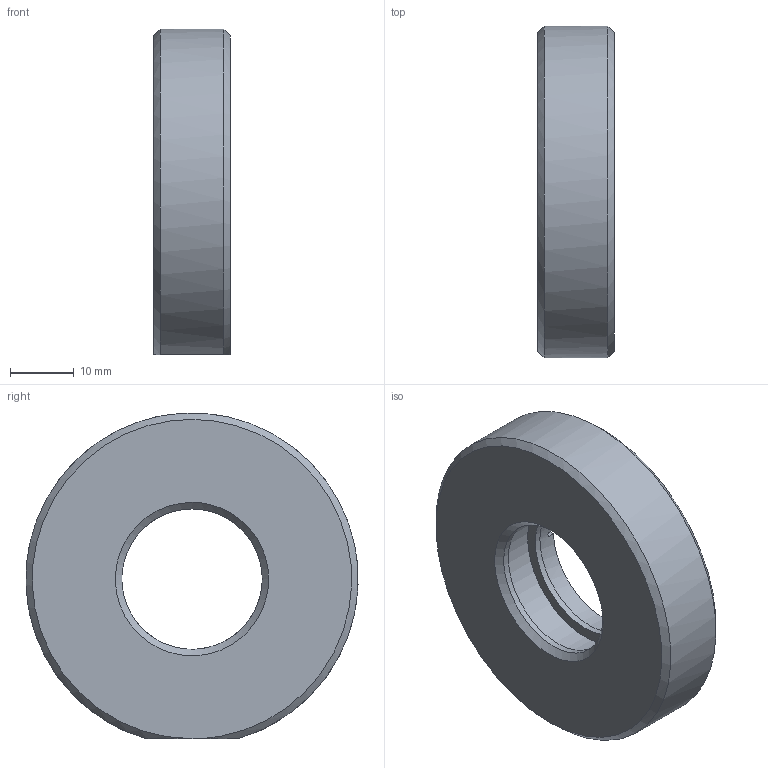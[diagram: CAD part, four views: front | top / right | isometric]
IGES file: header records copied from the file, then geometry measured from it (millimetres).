
Global section: file name: LHF-25.4EE; native system: Autodesk Inventor 2014; preprocessor: unknown; author: e.nonaka; date: 20140804.111601; units: millimetre
Bounding box: 12 x 51.98 x 50.97 mm (x, y, z)
Volume: 19824.3 mm3; surface area: 6464.3 mm2
Topology: 1 solids, 1 shells, 43 faces, 105 edges, 68 vertices
Faces by surface type: bspline 43
